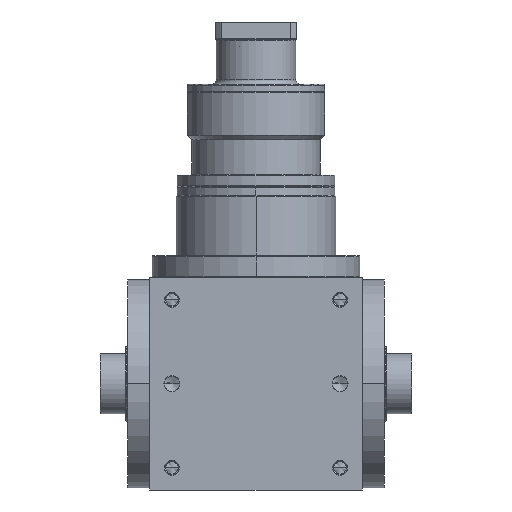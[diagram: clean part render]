
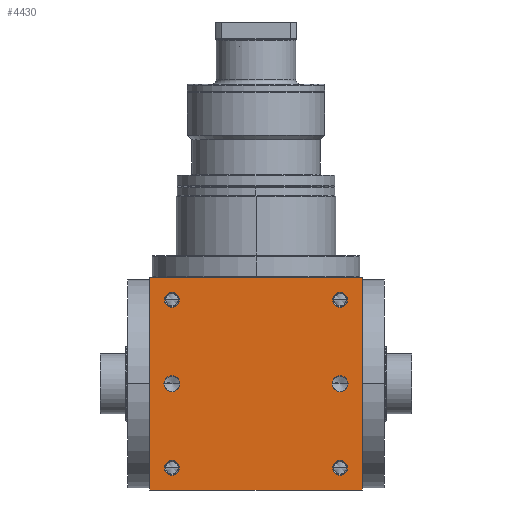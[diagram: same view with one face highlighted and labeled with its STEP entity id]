
A CAD part, front view. The second image highlights one B-rep face of the part: STEP entity #4430.
In plain terms, the highlighted planar face has unit normal (0, -1, 0).
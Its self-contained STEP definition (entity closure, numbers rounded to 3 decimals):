
#5=DIRECTION('',(1.,0.,0.));
#6=VECTOR('',#5,240.);
#7=CARTESIAN_POINT('',(-120.,-120.,-120.));
#8=LINE('',#7,#6);
#155=DIRECTION('',(0.,0.,1.));
#156=VECTOR('',#155,240.);
#157=CARTESIAN_POINT('',(120.,-120.,-120.));
#158=LINE('',#157,#156);
#209=DIRECTION('',(0.,0.,1.));
#210=VECTOR('',#209,240.);
#211=CARTESIAN_POINT('',(-120.,-120.,-120.));
#212=LINE('',#211,#210);
#213=CARTESIAN_POINT('',(95.,-120.,95.));
#214=DIRECTION('',(0.,1.,0.));
#215=DIRECTION('',(-1.,0.,0.));
#216=AXIS2_PLACEMENT_3D('',#213,#214,#215);
#218=CARTESIAN_POINT('',(95.,-120.,95.));
#219=DIRECTION('',(0.,1.,0.));
#220=DIRECTION('',(1.,0.,0.));
#221=AXIS2_PLACEMENT_3D('',#218,#219,#220);
#223=CARTESIAN_POINT('',(-95.,-120.,95.));
#224=DIRECTION('',(0.,1.,0.));
#225=DIRECTION('',(-1.,0.,0.));
#226=AXIS2_PLACEMENT_3D('',#223,#224,#225);
#228=CARTESIAN_POINT('',(-95.,-120.,95.));
#229=DIRECTION('',(0.,1.,0.));
#230=DIRECTION('',(1.,0.,0.));
#231=AXIS2_PLACEMENT_3D('',#228,#229,#230);
#233=CARTESIAN_POINT('',(95.,-120.,-95.));
#234=DIRECTION('',(0.,1.,0.));
#235=DIRECTION('',(-1.,0.,0.));
#236=AXIS2_PLACEMENT_3D('',#233,#234,#235);
#238=CARTESIAN_POINT('',(95.,-120.,-95.));
#239=DIRECTION('',(0.,1.,0.));
#240=DIRECTION('',(1.,0.,0.));
#241=AXIS2_PLACEMENT_3D('',#238,#239,#240);
#243=CARTESIAN_POINT('',(-95.,-120.,-95.));
#244=DIRECTION('',(0.,1.,0.));
#245=DIRECTION('',(-1.,0.,0.));
#246=AXIS2_PLACEMENT_3D('',#243,#244,#245);
#248=CARTESIAN_POINT('',(-95.,-120.,-95.));
#249=DIRECTION('',(0.,1.,0.));
#250=DIRECTION('',(1.,0.,0.));
#251=AXIS2_PLACEMENT_3D('',#248,#249,#250);
#253=CARTESIAN_POINT('',(-95.,-120.,0.));
#254=DIRECTION('',(0.,1.,0.));
#255=DIRECTION('',(1.,0.,0.));
#256=AXIS2_PLACEMENT_3D('',#253,#254,#255);
#258=CARTESIAN_POINT('',(-95.,-120.,0.));
#259=DIRECTION('',(0.,1.,0.));
#260=DIRECTION('',(-1.,0.,0.));
#261=AXIS2_PLACEMENT_3D('',#258,#259,#260);
#263=CARTESIAN_POINT('',(95.,-120.,0.));
#264=DIRECTION('',(0.,1.,0.));
#265=DIRECTION('',(1.,0.,0.));
#266=AXIS2_PLACEMENT_3D('',#263,#264,#265);
#268=CARTESIAN_POINT('',(95.,-120.,0.));
#269=DIRECTION('',(0.,1.,0.));
#270=DIRECTION('',(-1.,0.,0.));
#271=AXIS2_PLACEMENT_3D('',#268,#269,#270);
#285=DIRECTION('',(1.,0.,0.));
#286=VECTOR('',#285,240.);
#287=CARTESIAN_POINT('',(-120.,-120.,120.));
#288=LINE('',#287,#286);
#3564=CARTESIAN_POINT('',(-120.,-120.,-120.));
#3566=VERTEX_POINT('',#3564);
#3567=CARTESIAN_POINT('',(120.,-120.,-120.));
#3568=VERTEX_POINT('',#3567);
#3572=CARTESIAN_POINT('',(-120.,-120.,120.));
#3574=VERTEX_POINT('',#3572);
#3575=CARTESIAN_POINT('',(120.,-120.,120.));
#3576=VERTEX_POINT('',#3575);
#3731=CARTESIAN_POINT('',(86.6,-120.,95.));
#3732=CARTESIAN_POINT('',(103.4,-120.,95.));
#3733=VERTEX_POINT('',#3731);
#3734=VERTEX_POINT('',#3732);
#3739=CARTESIAN_POINT('',(-103.4,-120.,95.));
#3740=CARTESIAN_POINT('',(-86.6,-120.,95.));
#3741=VERTEX_POINT('',#3739);
#3742=VERTEX_POINT('',#3740);
#3747=CARTESIAN_POINT('',(86.6,-120.,-95.));
#3748=CARTESIAN_POINT('',(103.4,-120.,-95.));
#3749=VERTEX_POINT('',#3747);
#3750=VERTEX_POINT('',#3748);
#3755=CARTESIAN_POINT('',(-103.4,-120.,-95.));
#3756=CARTESIAN_POINT('',(-86.6,-120.,-95.));
#3757=VERTEX_POINT('',#3755);
#3758=VERTEX_POINT('',#3756);
#4079=CARTESIAN_POINT('',(-85.95,-120.,
0.));
#4080=CARTESIAN_POINT('',(-104.05,-120.,
0.));
#4081=VERTEX_POINT('',#4079);
#4082=VERTEX_POINT('',#4080);
#4087=CARTESIAN_POINT('',(104.05,-120.,0.));
#4088=CARTESIAN_POINT('',(85.95,-120.,0.));
#4089=VERTEX_POINT('',#4087);
#4090=VERTEX_POINT('',#4088);
#4382=CARTESIAN_POINT('',(-120.,-120.,-120.));
#4383=DIRECTION('',(0.,-1.,0.));
#4384=DIRECTION('',(1.,0.,0.));
#4385=AXIS2_PLACEMENT_3D('',#4382,#4383,#4384);
#4386=PLANE('',#4385);
#4387=ORIENTED_EDGE('',*,*,#4222,.F.);
#4388=ORIENTED_EDGE('',*,*,#4265,.T.);
#4390=ORIENTED_EDGE('',*,*,#4389,.T.);
#4391=ORIENTED_EDGE('',*,*,#4344,.F.);
#4392=EDGE_LOOP('',(#4387,#4388,#4390,#4391));
#4393=FACE_OUTER_BOUND('',#4392,.F.);
#4395=ORIENTED_EDGE('',*,*,#4394,.F.);
#4397=ORIENTED_EDGE('',*,*,#4396,.F.);
#4398=EDGE_LOOP('',(#4395,#4397));
#4399=FACE_BOUND('',#4398,.F.);
#4401=ORIENTED_EDGE('',*,*,#4400,.F.);
#4403=ORIENTED_EDGE('',*,*,#4402,.F.);
#4404=EDGE_LOOP('',(#4401,#4403));
#4405=FACE_BOUND('',#4404,.F.);
#4407=ORIENTED_EDGE('',*,*,#4406,.F.);
#4409=ORIENTED_EDGE('',*,*,#4408,.F.);
#4410=EDGE_LOOP('',(#4407,#4409));
#4411=FACE_BOUND('',#4410,.F.);
#4413=ORIENTED_EDGE('',*,*,#4412,.F.);
#4415=ORIENTED_EDGE('',*,*,#4414,.F.);
#4416=EDGE_LOOP('',(#4413,#4415));
#4417=FACE_BOUND('',#4416,.F.);
#4419=ORIENTED_EDGE('',*,*,#4418,.F.);
#4421=ORIENTED_EDGE('',*,*,#4420,.F.);
#4422=EDGE_LOOP('',(#4419,#4421));
#4423=FACE_BOUND('',#4422,.F.);
#4425=ORIENTED_EDGE('',*,*,#4424,.F.);
#4427=ORIENTED_EDGE('',*,*,#4426,.F.);
#4428=EDGE_LOOP('',(#4425,#4427));
#4429=FACE_BOUND('',#4428,.F.);
#4430=ADVANCED_FACE('',(#4393,#4399,#4405,#4411,#4417,#4423,#4429),#4386,.T.);
#217=CIRCLE('',#216,8.4);
#222=CIRCLE('',#221,8.4);
#227=CIRCLE('',#226,8.4);
#232=CIRCLE('',#231,8.4);
#237=CIRCLE('',#236,8.4);
#242=CIRCLE('',#241,8.4);
#247=CIRCLE('',#246,8.4);
#252=CIRCLE('',#251,8.4);
#257=CIRCLE('',#256,9.05);
#262=CIRCLE('',#261,9.05);
#267=CIRCLE('',#266,9.05);
#272=CIRCLE('',#271,9.05);
#4222=EDGE_CURVE('',#3566,#3568,#8,.T.);
#4265=EDGE_CURVE('',#3566,#3574,#212,.T.);
#4344=EDGE_CURVE('',#3568,#3576,#158,.T.);
#4389=EDGE_CURVE('',#3574,#3576,#288,.T.);
#4394=EDGE_CURVE('',#3733,#3734,#217,.T.);
#4396=EDGE_CURVE('',#3734,#3733,#222,.T.);
#4400=EDGE_CURVE('',#3741,#3742,#227,.T.);
#4402=EDGE_CURVE('',#3742,#3741,#232,.T.);
#4406=EDGE_CURVE('',#3749,#3750,#237,.T.);
#4408=EDGE_CURVE('',#3750,#3749,#242,.T.);
#4412=EDGE_CURVE('',#3757,#3758,#247,.T.);
#4414=EDGE_CURVE('',#3758,#3757,#252,.T.);
#4418=EDGE_CURVE('',#4081,#4082,#257,.T.);
#4420=EDGE_CURVE('',#4082,#4081,#262,.T.);
#4424=EDGE_CURVE('',#4089,#4090,#267,.T.);
#4426=EDGE_CURVE('',#4090,#4089,#272,.T.);
